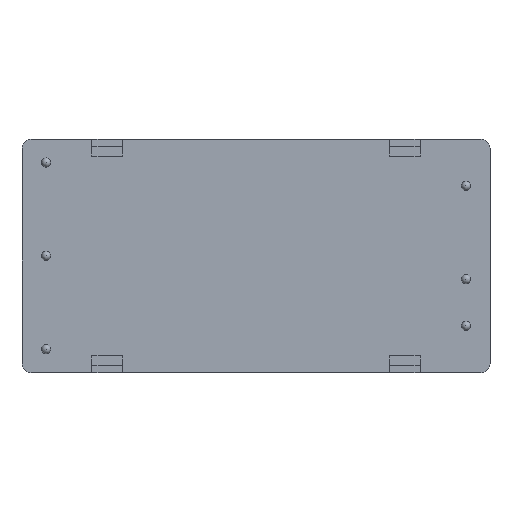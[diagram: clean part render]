
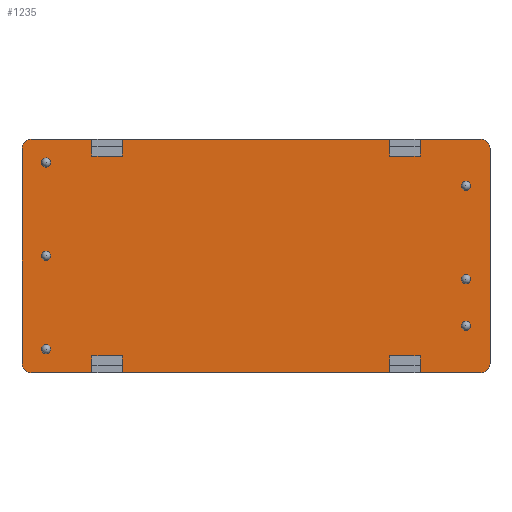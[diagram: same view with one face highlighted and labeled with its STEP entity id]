
A CAD part, top view. The second image highlights one B-rep face of the part: STEP entity #1235.
In plain terms, the highlighted planar face has unit normal (0, 0, 1).
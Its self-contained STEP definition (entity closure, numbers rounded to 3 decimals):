
#51=FACE_OUTER_BOUND('',#119,.T.);
#119=EDGE_LOOP('',(#817,#818,#819,#820,#821,#822,#823,#824,#825,#826,#827,
#828,#829,#830,#831,#832,#833,#834,#835,#836,#837,#838,#839,#840));
#193=CIRCLE('',#1319,1.025);
#194=CIRCLE('',#1320,1.025);
#195=CIRCLE('',#1321,1.025);
#196=CIRCLE('',#1322,1.025);
#241=LINE('',#1800,#381);
#242=LINE('',#1802,#382);
#243=LINE('',#1804,#383);
#244=LINE('',#1806,#384);
#245=LINE('',#1808,#385);
#246=LINE('',#1810,#386);
#247=LINE('',#1814,#387);
#248=LINE('',#1818,#388);
#249=LINE('',#1820,#389);
#250=LINE('',#1822,#390);
#251=LINE('',#1824,#391);
#252=LINE('',#1826,#392);
#253=LINE('',#1828,#393);
#254=LINE('',#1830,#394);
#255=LINE('',#1832,#395);
#256=LINE('',#1834,#396);
#257=LINE('',#1838,#397);
#258=LINE('',#1842,#398);
#259=LINE('',#1844,#399);
#260=LINE('',#1845,#400);
#381=VECTOR('',#1434,1.85);
#382=VECTOR('',#1435,29.12);
#383=VECTOR('',#1436,1.85);
#384=VECTOR('',#1437,3.3);
#385=VECTOR('',#1438,1.85);
#386=VECTOR('',#1439,6.59);
#387=VECTOR('',#1442,23.4);
#388=VECTOR('',#1445,6.59);
#389=VECTOR('',#1446,1.85);
#390=VECTOR('',#1447,3.3);
#391=VECTOR('',#1448,1.85);
#392=VECTOR('',#1449,29.12);
#393=VECTOR('',#1450,1.85);
#394=VECTOR('',#1451,3.3);
#395=VECTOR('',#1452,1.85);
#396=VECTOR('',#1453,6.59);
#397=VECTOR('',#1456,23.4);
#398=VECTOR('',#1459,6.59);
#399=VECTOR('',#1460,1.85);
#400=VECTOR('',#1461,3.3);
#521=VERTEX_POINT('',#1798);
#522=VERTEX_POINT('',#1799);
#523=VERTEX_POINT('',#1801);
#524=VERTEX_POINT('',#1803);
#525=VERTEX_POINT('',#1805);
#526=VERTEX_POINT('',#1807);
#527=VERTEX_POINT('',#1809);
#528=VERTEX_POINT('',#1811);
#529=VERTEX_POINT('',#1813);
#530=VERTEX_POINT('',#1815);
#531=VERTEX_POINT('',#1817);
#532=VERTEX_POINT('',#1819);
#533=VERTEX_POINT('',#1821);
#534=VERTEX_POINT('',#1823);
#535=VERTEX_POINT('',#1825);
#536=VERTEX_POINT('',#1827);
#537=VERTEX_POINT('',#1829);
#538=VERTEX_POINT('',#1831);
#539=VERTEX_POINT('',#1833);
#540=VERTEX_POINT('',#1835);
#541=VERTEX_POINT('',#1837);
#542=VERTEX_POINT('',#1839);
#543=VERTEX_POINT('',#1841);
#544=VERTEX_POINT('',#1843);
#629=EDGE_CURVE('',#521,#522,#241,.T.);
#630=EDGE_CURVE('',#523,#522,#242,.T.);
#631=EDGE_CURVE('',#523,#524,#243,.T.);
#632=EDGE_CURVE('',#524,#525,#244,.T.);
#633=EDGE_CURVE('',#525,#526,#245,.T.);
#634=EDGE_CURVE('',#527,#526,#246,.T.);
#635=EDGE_CURVE('',#528,#527,#193,.T.);
#636=EDGE_CURVE('',#529,#528,#247,.T.);
#637=EDGE_CURVE('',#530,#529,#194,.T.);
#638=EDGE_CURVE('',#531,#530,#248,.T.);
#639=EDGE_CURVE('',#531,#532,#249,.T.);
#640=EDGE_CURVE('',#532,#533,#250,.T.);
#641=EDGE_CURVE('',#533,#534,#251,.T.);
#642=EDGE_CURVE('',#535,#534,#252,.T.);
#643=EDGE_CURVE('',#535,#536,#253,.T.);
#644=EDGE_CURVE('',#536,#537,#254,.T.);
#645=EDGE_CURVE('',#537,#538,#255,.T.);
#646=EDGE_CURVE('',#539,#538,#256,.T.);
#647=EDGE_CURVE('',#540,#539,#195,.T.);
#648=EDGE_CURVE('',#541,#540,#257,.T.);
#649=EDGE_CURVE('',#542,#541,#196,.T.);
#650=EDGE_CURVE('',#543,#542,#258,.T.);
#651=EDGE_CURVE('',#543,#544,#259,.T.);
#652=EDGE_CURVE('',#544,#521,#260,.T.);
#817=ORIENTED_EDGE('',*,*,#629,.T.);
#818=ORIENTED_EDGE('',*,*,#630,.F.);
#819=ORIENTED_EDGE('',*,*,#631,.T.);
#820=ORIENTED_EDGE('',*,*,#632,.T.);
#821=ORIENTED_EDGE('',*,*,#633,.T.);
#822=ORIENTED_EDGE('',*,*,#634,.F.);
#823=ORIENTED_EDGE('',*,*,#635,.F.);
#824=ORIENTED_EDGE('',*,*,#636,.F.);
#825=ORIENTED_EDGE('',*,*,#637,.F.);
#826=ORIENTED_EDGE('',*,*,#638,.F.);
#827=ORIENTED_EDGE('',*,*,#639,.T.);
#828=ORIENTED_EDGE('',*,*,#640,.T.);
#829=ORIENTED_EDGE('',*,*,#641,.T.);
#830=ORIENTED_EDGE('',*,*,#642,.F.);
#831=ORIENTED_EDGE('',*,*,#643,.T.);
#832=ORIENTED_EDGE('',*,*,#644,.T.);
#833=ORIENTED_EDGE('',*,*,#645,.T.);
#834=ORIENTED_EDGE('',*,*,#646,.F.);
#835=ORIENTED_EDGE('',*,*,#647,.F.);
#836=ORIENTED_EDGE('',*,*,#648,.F.);
#837=ORIENTED_EDGE('',*,*,#649,.F.);
#838=ORIENTED_EDGE('',*,*,#650,.F.);
#839=ORIENTED_EDGE('',*,*,#651,.T.);
#840=ORIENTED_EDGE('',*,*,#652,.T.);
#1131=PLANE('',#1318);
#1235=ADVANCED_FACE('',(#51),#1131,.T.);
#1318=AXIS2_PLACEMENT_3D('',#1797,#1432,#1433);
#1319=AXIS2_PLACEMENT_3D('',#1812,#1440,#1441);
#1320=AXIS2_PLACEMENT_3D('',#1816,#1443,#1444);
#1321=AXIS2_PLACEMENT_3D('',#1836,#1454,#1455);
#1322=AXIS2_PLACEMENT_3D('',#1840,#1457,#1458);
#1432=DIRECTION('center_axis',(0.,0.,
1.));
#1433=DIRECTION('ref_axis',(1.,0.,0.));
#1434=DIRECTION('',(0.,-1.,0.));
#1435=DIRECTION('',(-1.,0.,0.));
#1436=DIRECTION('',(0.,1.,0.));
#1437=DIRECTION('',(1.,0.,0.));
#1438=DIRECTION('',(0.,-1.,0.));
#1439=DIRECTION('',(-1.,0.,0.));
#1440=DIRECTION('center_axis',(0.,0.,-1.));
#1441=DIRECTION('ref_axis',(0.,1.,0.));
#1442=DIRECTION('',(0.,-1.,0.));
#1443=DIRECTION('center_axis',(0.,0.,-1.));
#1444=DIRECTION('ref_axis',(-1.,0.,0.));
#1445=DIRECTION('',(1.,0.,0.));
#1446=DIRECTION('',(0.,-1.,0.));
#1447=DIRECTION('',(-1.,0.,0.));
#1448=DIRECTION('',(0.,1.,0.));
#1449=DIRECTION('',(1.,0.,0.));
#1450=DIRECTION('',(0.,-1.,0.));
#1451=DIRECTION('',(-1.,0.,0.));
#1452=DIRECTION('',(0.,1.,0.));
#1453=DIRECTION('',(1.,0.,0.));
#1454=DIRECTION('center_axis',(0.,0.,-1.));
#1455=DIRECTION('ref_axis',(0.,-1.,0.));
#1456=DIRECTION('',(0.,1.,0.));
#1457=DIRECTION('center_axis',(0.,0.,-1.));
#1458=DIRECTION('ref_axis',(1.,0.,0.));
#1459=DIRECTION('',(-1.,0.,0.));
#1460=DIRECTION('',(0.,1.,0.));
#1461=DIRECTION('',(1.,0.,0.));
#1797=CARTESIAN_POINT('Origin',(0.,0.,11.));
#1798=CARTESIAN_POINT('',(-14.56,-10.875,11.));
#1799=CARTESIAN_POINT('',(-14.56,-12.725,11.));
#1800=CARTESIAN_POINT('',(-14.56,-6.362,11.));
#1801=CARTESIAN_POINT('',(14.56,-12.725,11.));
#1802=CARTESIAN_POINT('',(24.45,-12.725,11.));
#1803=CARTESIAN_POINT('',(14.56,-10.875,11.));
#1804=CARTESIAN_POINT('',(14.56,-5.437,11.));
#1805=CARTESIAN_POINT('',(17.86,-10.875,11.));
#1806=CARTESIAN_POINT('',(8.93,-10.875,11.));
#1807=CARTESIAN_POINT('',(17.86,-12.725,11.));
#1808=CARTESIAN_POINT('',(17.86,-6.363,11.));
#1809=CARTESIAN_POINT('',(24.45,-12.725,11.));
#1810=CARTESIAN_POINT('',(24.45,-12.725,11.));
#1811=CARTESIAN_POINT('',(25.475,-11.7,11.));
#1812=CARTESIAN_POINT('Origin',(24.45,-11.7,11.));
#1813=CARTESIAN_POINT('',(25.475,11.7,11.));
#1814=CARTESIAN_POINT('',(25.475,11.7,11.));
#1815=CARTESIAN_POINT('',(24.45,12.725,11.));
#1816=CARTESIAN_POINT('Origin',(24.45,11.7,11.));
#1817=CARTESIAN_POINT('',(17.86,12.725,11.));
#1818=CARTESIAN_POINT('',(-24.45,12.725,11.));
#1819=CARTESIAN_POINT('',(17.86,10.875,11.));
#1820=CARTESIAN_POINT('',(17.86,5.438,11.));
#1821=CARTESIAN_POINT('',(14.56,10.875,11.));
#1822=CARTESIAN_POINT('',(7.28,10.875,11.));
#1823=CARTESIAN_POINT('',(14.56,12.725,11.));
#1824=CARTESIAN_POINT('',(14.56,6.362,11.));
#1825=CARTESIAN_POINT('',(-14.56,12.725,11.));
#1826=CARTESIAN_POINT('',(-24.45,12.725,11.));
#1827=CARTESIAN_POINT('',(-14.56,10.875,11.));
#1828=CARTESIAN_POINT('',(-14.56,5.437,11.));
#1829=CARTESIAN_POINT('',(-17.86,10.875,11.));
#1830=CARTESIAN_POINT('',(-8.93,10.875,11.));
#1831=CARTESIAN_POINT('',(-17.86,12.725,11.));
#1832=CARTESIAN_POINT('',(-17.86,6.363,11.));
#1833=CARTESIAN_POINT('',(-24.45,12.725,11.));
#1834=CARTESIAN_POINT('',(-24.45,12.725,11.));
#1835=CARTESIAN_POINT('',(-25.475,11.7,11.));
#1836=CARTESIAN_POINT('Origin',(-24.45,11.7,11.));
#1837=CARTESIAN_POINT('',(-25.475,-11.7,11.));
#1838=CARTESIAN_POINT('',(-25.475,-11.7,11.));
#1839=CARTESIAN_POINT('',(-24.45,-12.725,11.));
#1840=CARTESIAN_POINT('Origin',(-24.45,-11.7,11.));
#1841=CARTESIAN_POINT('',(-17.86,-12.725,11.));
#1842=CARTESIAN_POINT('',(24.45,-12.725,11.));
#1843=CARTESIAN_POINT('',(-17.86,-10.875,11.));
#1844=CARTESIAN_POINT('',(-17.86,-5.438,11.));
#1845=CARTESIAN_POINT('',(-7.28,-10.875,11.));
